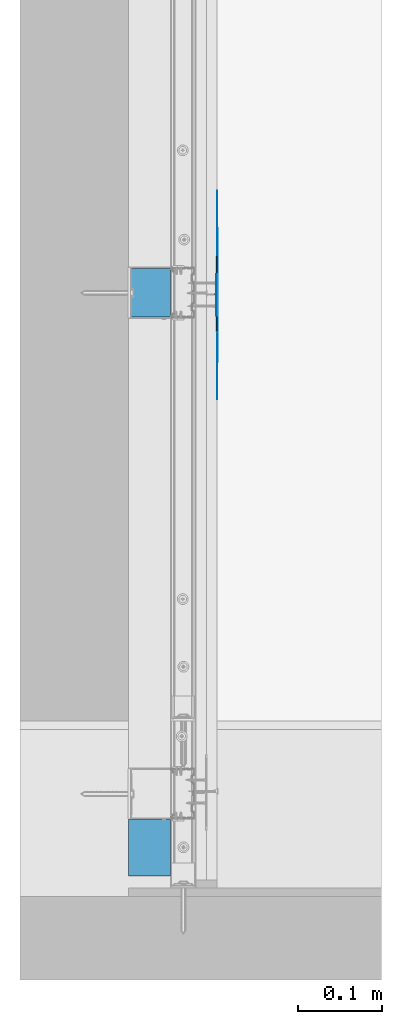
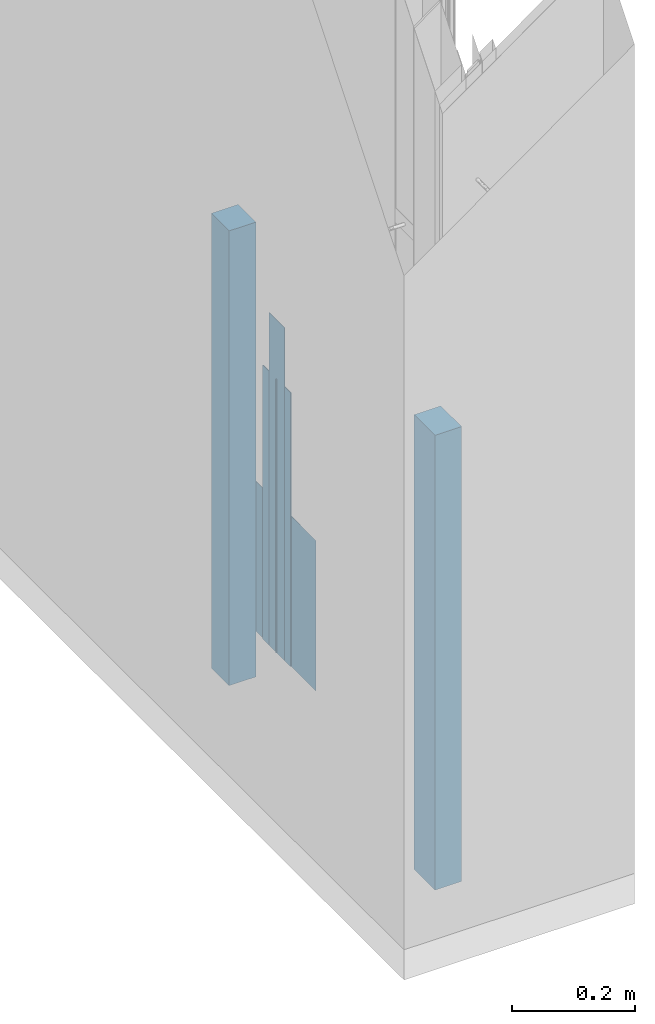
# One storey, part 5 of 62: 5 walls.
"""IFC2X3 building model written with IfcOpenShell, lengths in millimetres."""

import ifcopenshell
import ifcopenshell.guid

model = None  # the IFC model being written
_history = None  # IfcOwnerHistory: only IFC2X3 demands one
_inside = {}  # id of a spatial element -> (the spatial element, [elements in it])
_under = {}  # id of a project, library or spatial element -> (it, [spatial elements below it])
_declared = {}  # id of a project -> (the project, [libraries it declares])
_typed = {}  # id of a type object -> (the type object, [elements of that type])
_made_of = {}  # id of a material, layer set ... -> (it, [elements and type objects made of it])


def new_model(schema):
    """Start an empty IFC model of exactly this schema.

    Asked for "IFC4X3", IfcOpenShell would pick the latest addendum, in which some entities
    have other attributes; the version numbers below select the first issue.
    IFC2X3 requires an IfcOwnerHistory on every rooted entity: one is made here for all.
    """
    global model, _history
    if schema == "IFC4X3":
        model = ifcopenshell.file(schema_version=(4, 3, 0, 0))
    else:
        model = ifcopenshell.file(schema=schema)
    _inside.clear()
    _under.clear()
    _declared.clear()
    _typed.clear()
    _made_of.clear()
    _history = None
    if model.schema == "IFC2X3":
        org = make("IfcOrganization", Name="unknown")
        user = make(
            "IfcPersonAndOrganization",
            ThePerson=make("IfcPerson", FamilyName="unknown"),
            TheOrganization=org,
        )
        app = make(
            "IfcApplication",
            ApplicationDeveloper=org,
            Version="unknown",
            ApplicationFullName="unknown",
            ApplicationIdentifier="unknown",
        )
        _history = make(
            "IfcOwnerHistory",
            OwningUser=user,
            OwningApplication=app,
            ChangeAction="ADDED",
            CreationDate=0,
        )
    return model


def make(cls, **values):
    """One entity of the class cls with the attributes given. An attribute that is None is left unset."""
    return model.create_entity(
        cls, **{name: value for name, value in values.items() if value is not None}
    )


def rooted(cls, **values):
    """An entity with a GlobalId (a new one), such as an element, a storey or a relation."""
    return make(cls, GlobalId=ifcopenshell.guid.new(), OwnerHistory=_history, **values)


def si_unit(unit_type, name, prefix=None):
    """IfcSIUnit, for example si_unit("LENGTHUNIT", "METRE", prefix="MILLI")."""
    return make("IfcSIUnit", UnitType=unit_type, Prefix=prefix, Name=name)


def assignment(units):
    """IfcUnitAssignment: the units of a project."""
    return None if units is None else make("IfcUnitAssignment", Units=units)


def point(xyz):
    """IfcCartesianPoint."""
    return None if xyz is None else make("IfcCartesianPoint", Coordinates=xyz)


def direction(xyz):
    """IfcDirection."""
    return None if xyz is None else make("IfcDirection", DirectionRatios=xyz)


def frame(location, z_axis=None, x_axis=None):
    """IfcAxis2Placement3D, a coordinate frame: its origin and axes. An axis left out is left unset."""
    return make(
        "IfcAxis2Placement3D",
        Location=point(location),
        Axis=direction(z_axis),
        RefDirection=direction(x_axis),
    )


def origin_with_axes():
    """The frame at (0, 0, 0) with the z axis (0, 0, 1) and the x axis (1, 0, 0) written out."""
    return frame((0.0, 0.0, 0.0), z_axis=(0.0, 0.0, 1.0), x_axis=(1.0, 0.0, 0.0))


def place(relative_to, where):
    """IfcLocalPlacement: puts the frame where relative to a parent placement (None: the world)."""
    return make(
        "IfcLocalPlacement", PlacementRelTo=relative_to, RelativePlacement=where
    )


def context(
    kind, dimensions, precision=None, world=None, true_north=None, identifier=None
):
    """IfcGeometricRepresentationContext, for example the 3D "Model" context."""
    return make(
        "IfcGeometricRepresentationContext",
        ContextIdentifier=identifier,
        ContextType=kind,
        CoordinateSpaceDimension=dimensions,
        Precision=precision,
        WorldCoordinateSystem=world,
        TrueNorth=true_north,
    )


def subcontext(parent, identifier, kind, view, scale=None):
    """IfcGeometricRepresentationSubContext, for example "Body" below "Model"."""
    return make(
        "IfcGeometricRepresentationSubContext",
        ContextIdentifier=identifier,
        ContextType=kind,
        ParentContext=parent,
        TargetScale=scale,
        TargetView=view,
    )


def project(units=None, contexts=None):
    """IfcProject with its units and contexts."""
    return rooted(
        "IfcProject",
        Name="project",
        RepresentationContexts=contexts,
        UnitsInContext=assignment(units),
    )


def spatial(cls, under=None, at=None, **own):
    """A site, building, storey or space (cls), placed at a placement, below another one or the project."""
    s = rooted(cls, ObjectPlacement=at, **own)
    if under is not None:
        _under.setdefault(under.id(), (under, []))[1].append(s)
    return s


def faces_of(points, faces, orient=None, outer=None):
    """IfcFace entities. A face is a list of loops; a loop is a list of indices into points, from 0.

    orient and outer hold one flag for each loop. By default every Orientation is true, the
    first loop of a face is its IfcFaceOuterBound and the others are IfcFaceBound.
    """
    made = []
    for i, loops in enumerate(faces):
        bounds = []
        for j, loop in enumerate(loops):
            is_outer = j == 0 if outer is None else outer[i][j]
            bounds.append(
                make(
                    "IfcFaceOuterBound" if is_outer else "IfcFaceBound",
                    Bound=make("IfcPolyLoop", Polygon=[points[k] for k in loop]),
                    Orientation=True if orient is None else orient[i][j],
                )
            )
        made.append(make("IfcFace", Bounds=bounds))
    return made


def faceted_brep(points, faces, orient=None, outer=None, voids=None):
    """IfcFacetedBrep: a solid bounded by flat faces; with voids (closed shells), ...WithVoids."""
    shared = [point(p) for p in points]
    hull = make("IfcClosedShell", CfsFaces=faces_of(shared, faces, orient, outer))
    if voids is None:
        return make("IfcFacetedBrep", Outer=hull)
    return make(
        "IfcFacetedBrepWithVoids",
        Outer=hull,
        Voids=[
            make(cls, CfsFaces=faces_of(shared, fs, o, b)) for cls, fs, o, b in voids
        ],
    )


def shape(context_of_items, identifier, shape_type, items):
    """IfcShapeRepresentation: the items that make up one representation, for example the "Body"."""
    return make(
        "IfcShapeRepresentation",
        ContextOfItems=context_of_items,
        RepresentationIdentifier=identifier,
        RepresentationType=shape_type,
        Items=items,
    )


def material(Name=None, Category=None):
    """IfcMaterial."""
    return make("IfcMaterial", Name=Name, Category=Category)


def made_of(thing, what):
    """Note that an element or type object is made of a material, layer set ...; save() writes the relation."""
    if what is not None:
        _made_of.setdefault(what.id(), (what, []))[1].append(thing)
    return thing


def type_object(cls, material=None, **own):
    """A type object (cls), such as IfcWallType, which elements share."""
    return made_of(rooted(cls, **own), material)


def element(
    cls,
    number,
    at=None,
    inside=None,
    cuts=None,
    type_object=None,
    material=None,
    context=None,
    identifier="Body",
    shape_type=None,
    held_by="IfcProductDefinitionShape",
    body=None,
    shapes=None,
    **own,
):
    """One element of the class cls, such as IfcWall. Its Tag is "e" and its number.

    at: its placement. inside: the storey or other place that contains it. cuts: it is an
    opening in that element (IfcRelVoidsElement). A single representation is given by context,
    identifier, shape_type and body (its items); several are given by shapes. held_by: the class
    of the entity that holds the representations. save() writes the other relations.
    """
    e = rooted(cls, Tag="e%d" % number, ObjectPlacement=at, **own)
    if body is not None:
        shapes = [shape(context, identifier, shape_type, body)]
    if shapes is not None:
        e.Representation = make(held_by, Representations=shapes)
    if inside is not None:
        _inside.setdefault(inside.id(), (inside, []))[1].append(e)
    if cuts is not None:
        rooted(
            "IfcRelVoidsElement", RelatingBuildingElement=cuts, RelatedOpeningElement=e
        )
    if type_object is not None:
        _typed.setdefault(type_object.id(), (type_object, []))[1].append(e)
    return made_of(e, material)


def aggregate(whole, parts):
    """IfcRelAggregates: a whole, such as a stair, and the parts it consists of."""
    return rooted("IfcRelAggregates", RelatingObject=whole, RelatedObjects=parts)


def save(model, path):
    """Write the relations noted so far, then the file.

    IfcRelAggregates (storeys below a building ...), IfcRelContainedInSpatialStructure (elements
    in a storey), IfcRelDefinesByType, IfcRelAssociatesMaterial and IfcRelDeclares: one each for
    every whole, place, type object, material and project.
    """
    for whole, parts in _under.values():
        aggregate(whole, parts)
    for where, things in _inside.values():
        rooted(
            "IfcRelContainedInSpatialStructure",
            RelatedElements=things,
            RelatingStructure=where,
        )
    for kind, things in _typed.values():
        rooted("IfcRelDefinesByType", RelatedObjects=things, RelatingType=kind)
    for what, things in _made_of.values():
        rooted("IfcRelAssociatesMaterial", RelatedObjects=things, RelatingMaterial=what)
    for by, libraries in _declared.values():
        rooted("IfcRelDeclares", RelatingContext=by, RelatedDefinitions=libraries)
    model.write(path)


model = new_model("IFC2X3")

# Units and contexts
model_context = context("Model", 3, world=origin_with_axes())
body_context = subcontext(model_context, "Body", "Model", "MODEL_VIEW")
ifc_project = project(units=[si_unit("LENGTHUNIT", "METRE", prefix="MILLI"), si_unit("AREAUNIT", "SQUARE_METRE"), si_unit("VOLUMEUNIT", "CUBIC_METRE")], contexts=[model_context])

# Site, building, storey
site_placement = place(None, frame((2152.14102611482, -2015.0250894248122, 57.61556563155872), z_axis=(0.0, 0.0, 1.0), x_axis=(-1.1102230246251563e-16, 1.0, 0.0)))
site = spatial("IfcSite", under=ifc_project, at=site_placement, Name="Default Site", CompositionType="ELEMENT")
building_placement = place(site_placement, origin_with_axes())
building = spatial("IfcBuilding", under=site, at=building_placement, Name="Default Building", CompositionType="ELEMENT")
storey_placement = place(building_placement, origin_with_axes())
storey = spatial("IfcBuildingStorey", under=building, at=storey_placement, Name="Default Building Storey", CompositionType="ELEMENT", Elevation=57.61556563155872)

# Walls
ifc_material_1 = material(Name="Undefined5")
wall_type_1 = type_object("IfcWallType", Name="Masa szpachlowa konstrukcyjna RIGIPS", PredefinedType="NOTDEFINED")
wall_1_placement = place(storey_placement, frame((2099.047154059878, 5306.736799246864, 9.938461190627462), z_axis=(0.0, 0.0, 1.0), x_axis=(-1.0, 0.0, 0.0)))
element("IfcWall", 1, at=wall_1_placement, inside=storey, type_object=wall_type_1, material=ifc_material_1, Name="Masa szpachlowa konstrukcyjna RIGIPS", context=body_context, shape_type="Brep", body=[
    faceted_brep([(-737.4838590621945, 3387.669563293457, 546.7999777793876), (-737.4592423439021, 3387.356758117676, 546.7999777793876), (-737.4345660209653, 3387.669563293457, 546.7999777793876), (-737.361311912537, 3387.974739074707, 546.7999777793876), (-737.2412085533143, 3388.2646560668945, 546.7999777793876), (-737.0772361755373, 3388.532400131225, 546.7999777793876), (-736.8734478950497, 3388.770818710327, 546.7999777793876), (-736.6347908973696, 3388.9746665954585, 546.7999777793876), (-736.3672256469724, 3389.138698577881, 546.7999777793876), (-736.0772490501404, 3389.258861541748, 546.7999777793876), (-735.7720732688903, 3389.3320560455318, 546.7999777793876), (-735.4592084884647, 3389.3566131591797, 546.7999777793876), (-692.4592256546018, 3389.3566131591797, 546.7999777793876), (-691.4592385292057, 3390.556812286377, 546.7999777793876), (-782.459199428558, 3390.556812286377, 546.7999777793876), (-782.459199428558, 3389.3566131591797, 546.7999777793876), (-739.4592165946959, 3389.3566131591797, 546.7999777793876), (-739.1463518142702, 3389.3320560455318, 546.7999777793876), (-738.8411760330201, 3389.258861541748, 546.7999777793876), (-738.5512590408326, 3389.138698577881, 546.7999777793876), (-738.2836341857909, 3388.9746665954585, 546.7999777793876), (-738.0449771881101, 3388.770818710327, 546.7999777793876), (-737.8411889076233, 3388.532400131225, 546.7999777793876), (-737.6772165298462, 3388.2646560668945, 546.7999777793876), (-737.5571131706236, 3387.974739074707, 546.7999777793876), (-691.4592385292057, 3390.556812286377, 2.4499970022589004), (-692.4592256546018, 3389.3566131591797, 2.4499970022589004), (-735.4592084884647, 3389.3566131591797, 2.4499970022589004), (-735.7720732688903, 3389.3320560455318, 2.4499970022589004), (-736.0772490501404, 3389.258861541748, 2.4499970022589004), (-736.3672256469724, 3389.138698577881, 2.4499970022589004), (-736.6347908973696, 3388.9746665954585, 2.4499970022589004), (-736.8734478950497, 3388.770818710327, 2.4499970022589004), (-737.0772361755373, 3388.532400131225, 2.4499970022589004), (-737.2412085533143, 3388.2646560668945, 2.4499970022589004), (-737.361311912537, 3387.974739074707, 2.4499970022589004), (-737.4345660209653, 3387.669563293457, 2.4499970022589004), (-737.4592423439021, 3387.356758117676, 2.4499970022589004), (-737.4838590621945, 3387.669563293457, 2.4499970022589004), (-737.5571131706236, 3387.974739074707, 2.4499970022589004), (-737.6772165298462, 3388.2646560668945, 2.4499970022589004), (-737.8411889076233, 3388.532400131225, 2.4499970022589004), (-738.0449771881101, 3388.770818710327, 2.4499970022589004), (-738.2836341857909, 3388.9746665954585, 2.4499970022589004), (-738.5512590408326, 3389.138698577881, 2.4499970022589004), (-738.8411760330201, 3389.258861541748, 2.4499970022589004), (-739.1463518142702, 3389.3320560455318, 2.4499970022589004), (-739.4592165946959, 3389.3566131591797, 2.4499970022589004), (-782.459199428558, 3389.3566131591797, 2.4499970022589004), (-782.459199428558, 3390.556812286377, 2.4499970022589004)], [[[0, 1, 2, 3, 4, 5, 6, 7, 8, 9, 10, 11, 12, 13, 14, 15, 16, 17, 18, 19, 20, 21, 22, 23, 24]], [[25, 26, 27, 28, 29, 30, 31, 32, 33, 34, 35, 36, 37, 38, 39, 40, 41, 42, 43, 44, 45, 46, 47, 48, 49]], [[26, 12, 11, 27]], [[10, 9, 29, 28]], [[28, 27, 11, 10]], [[8, 30, 29, 9]], [[7, 6, 32, 31]], [[31, 30, 8, 7]], [[5, 4, 34, 33]], [[33, 32, 6, 5]], [[3, 35, 34, 4]], [[2, 1, 37, 36]], [[36, 35, 3, 2]], [[0, 24, 39, 38]], [[38, 37, 1, 0]], [[23, 40, 39, 24]], [[22, 21, 42, 41]], [[41, 40, 23, 22]], [[20, 19, 44, 43]], [[43, 42, 21, 20]], [[18, 45, 44, 19]], [[17, 16, 47, 46]], [[46, 45, 18, 17]], [[47, 16, 15, 48]], [[48, 15, 14, 49]], [[49, 14, 13, 25]], [[25, 13, 12, 26]]]),
])
ifc_material_2 = material(Name="Undefined8")
wall_type_2 = type_object("IfcWallType", Name="Taśma spoinowa RIGIPS", PredefinedType="NOTDEFINED")
wall_2_placement = place(storey_placement, frame((3572.9655867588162, 5306.736799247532, 9.938461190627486), z_axis=(0.0, 0.0, 1.0), x_axis=(1.0, 0.0, 0.0)))
element("IfcWall", 2, at=wall_2_placement, inside=storey, type_object=wall_type_2, material=ifc_material_2, Name="Taśma spoinowa RIGIPS", context=body_context, shape_type="Brep", body=[
    faceted_brep([(-762.4592185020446, -3389.3566131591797, 663.8000016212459), (-762.4592185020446, -3389.8568153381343, 663.8000016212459), (-712.4592065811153, -3389.8568153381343, 663.8000016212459), (-712.4592065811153, -3389.3566131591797, 663.8000016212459), (-762.4592185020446, -3389.8568153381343, 2.4499970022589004), (-762.4592185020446, -3389.3566131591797, 2.4499970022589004), (-712.4592065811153, -3389.3566131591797, 2.4499970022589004), (-712.4592065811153, -3389.8568153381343, 2.4499970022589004)], [[[0, 1, 2, 3]], [[4, 5, 6, 7]], [[5, 0, 3, 6]], [[4, 1, 0, 5]], [[7, 2, 1, 4]], [[6, 3, 2, 7]]]),
])
ifc_material_3 = material(Name="Default")
wall_type_3 = type_object("IfcWallType", Name="Wypełnienie z wełny mineralnej szklanej ISOVER#16", PredefinedType="NOTDEFINED")
wall_3_placement = place(storey_placement, frame((2641.06230676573, 5350.424146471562, -7.900000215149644), z_axis=(0.0, 0.0, 1.0), x_axis=(-1.0, 4.718447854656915e-16, 0.0)))
element("IfcWall", 3, at=wall_3_placement, inside=storey, type_object=wall_type_3, material=ifc_material_3, Name="Wypełnienie z wełny mineralnej szklanej ISOVER", context=body_context, shape_type="Brep", body=[
    faceted_brep([(-168.1247800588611, 3328.2832634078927, 7.899999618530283), (-168.1247800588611, 3328.2832634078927, 911.5436077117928), (-225.9747815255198, 3328.2832634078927, 911.5436077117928), (-225.9747815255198, 3328.2832634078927, 7.899999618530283), (-168.124780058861, 3378.283168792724, 7.899999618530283), (-168.124780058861, 3378.283168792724, 911.5436077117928), (-225.9747815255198, 3378.283168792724, 911.5436077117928), (-225.9747815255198, 3378.283168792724, 7.899999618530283)], [[[0, 1, 2, 3]], [[0, 4, 5, 1]], [[6, 5, 4, 7]], [[7, 4, 0, 3]]]),
    faceted_brep([(-225.9747815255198, 3328.2832634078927, 911.5436077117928), (-225.9747815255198, 3378.283168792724, 911.5436077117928), (-225.9747815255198, 3378.283168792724, 7.899999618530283), (-225.9747815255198, 3328.2832634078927, 7.899999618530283), (-168.1247800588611, 3328.2832634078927, 911.5436077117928), (-168.124780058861, 3378.283168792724, 911.5436077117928)], [[[0, 1, 2, 3]], [[1, 0, 4, 5]]]),
])
ifc_material_4 = material(Name="Undefined2")
wall_type_4 = type_object("IfcWallType", Name="Masa szpachlowa wykończeniowa RIGIPS", PredefinedType="NOTDEFINED")
wall_4_placement = place(storey_placement, frame((3572.965586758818, 5306.736799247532, 9.938461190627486), z_axis=(0.0, 0.0, 1.0), x_axis=(1.0, 0.0, 0.0)))
element("IfcWall", 4, at=wall_4_placement, inside=storey, type_object=wall_type_4, material=ifc_material_4, Name="Masa szpachlowa wykończeniowa RIGIPS", context=body_context, shape_type="Brep", body=[
    faceted_brep([(-662.4571681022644, -3391.1967277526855, 2.449997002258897), (-712.4581933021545, -3391.5166854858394, 2.449997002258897), (-762.4602317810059, -3391.5166854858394, 2.449997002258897), (-812.461256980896, -3391.1967277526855, 2.449997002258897), (-862.4592423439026, -3390.556812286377, 2.449997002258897), (-612.4592423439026, -3390.556812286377, 2.449997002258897), (-712.4581933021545, -3391.5166854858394, 300.79999566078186), (-662.4571681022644, -3391.1967277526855, 300.79999566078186), (-612.4592423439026, -3390.556812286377, 300.79999566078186), (-862.4592423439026, -3390.556812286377, 300.79999566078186), (-812.461256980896, -3391.1967277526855, 300.79999566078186), (-762.4602317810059, -3391.5166854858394, 300.79999566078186)], [[[0, 1, 2, 3, 4, 5]], [[6, 7, 8, 9, 10, 11]], [[7, 0, 5, 8]], [[6, 1, 0, 7]], [[11, 2, 1, 6]], [[10, 3, 2, 11]], [[3, 10, 9, 4]], [[4, 9, 8, 5]]]),
])
ifc_material_5 = material(Name="Undefined")
wall_type_5 = type_object("IfcWallType", Name="Wypełnienie z wełny mineralnej szklanej ISOVER#14", PredefinedType="NOTDEFINED")
wall_5_placement = place(storey_placement, frame((1971.1842541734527, 5350.424146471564, -7.9000002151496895), z_axis=(0.0, 0.0, 1.0), x_axis=(-1.0, 4.718447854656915e-16, 0.0)))
element("IfcWall", 5, at=wall_5_placement, inside=storey, type_object=wall_type_5, material=ifc_material_5, Name="Wypełnienie z wełny mineralnej szklanej ISOVER", context=body_context, shape_type="Brep", body=[
    faceted_brep([(-168.12478005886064, 3328.283263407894, 7.899999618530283), (-168.12478005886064, 3328.283263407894, 911.5436077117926), (-236.00283265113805, 3328.283263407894, 911.5436077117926), (-236.00283265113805, 3328.283263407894, 7.899999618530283), (-168.12478005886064, 3378.2831687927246, 7.899999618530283), (-168.12478005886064, 3378.2831687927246, 911.5436077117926), (-236.00283265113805, 3378.283168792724, 911.5436077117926), (-236.00283265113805, 3378.283168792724, 7.899999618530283)], [[[0, 1, 2, 3]], [[0, 4, 5, 1]], [[6, 5, 4, 7]], [[7, 4, 0, 3]]]),
    faceted_brep([(-236.00283265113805, 3328.283263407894, 911.5436077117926), (-236.00283265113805, 3378.283168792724, 911.5436077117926), (-236.00283265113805, 3378.283168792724, 7.899999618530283), (-236.00283265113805, 3328.283263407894, 7.899999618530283), (-168.12478005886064, 3328.283263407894, 911.5436077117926), (-168.12478005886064, 3378.2831687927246, 911.5436077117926)], [[[0, 1, 2, 3]], [[1, 0, 4, 5]]]),
])

save(model, "model.ifc")
